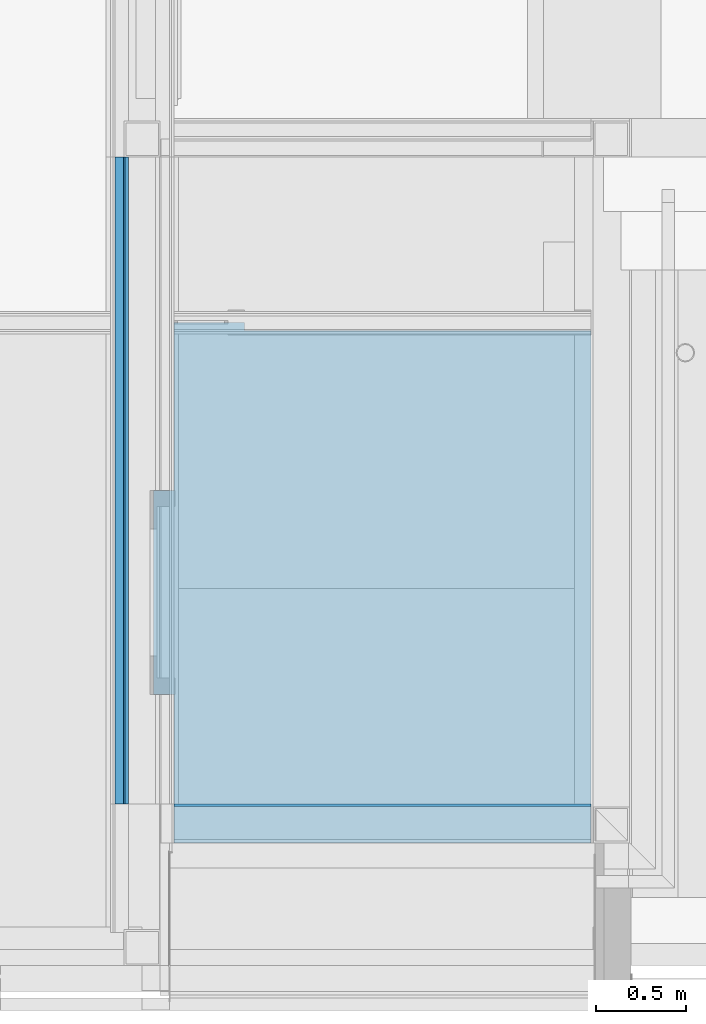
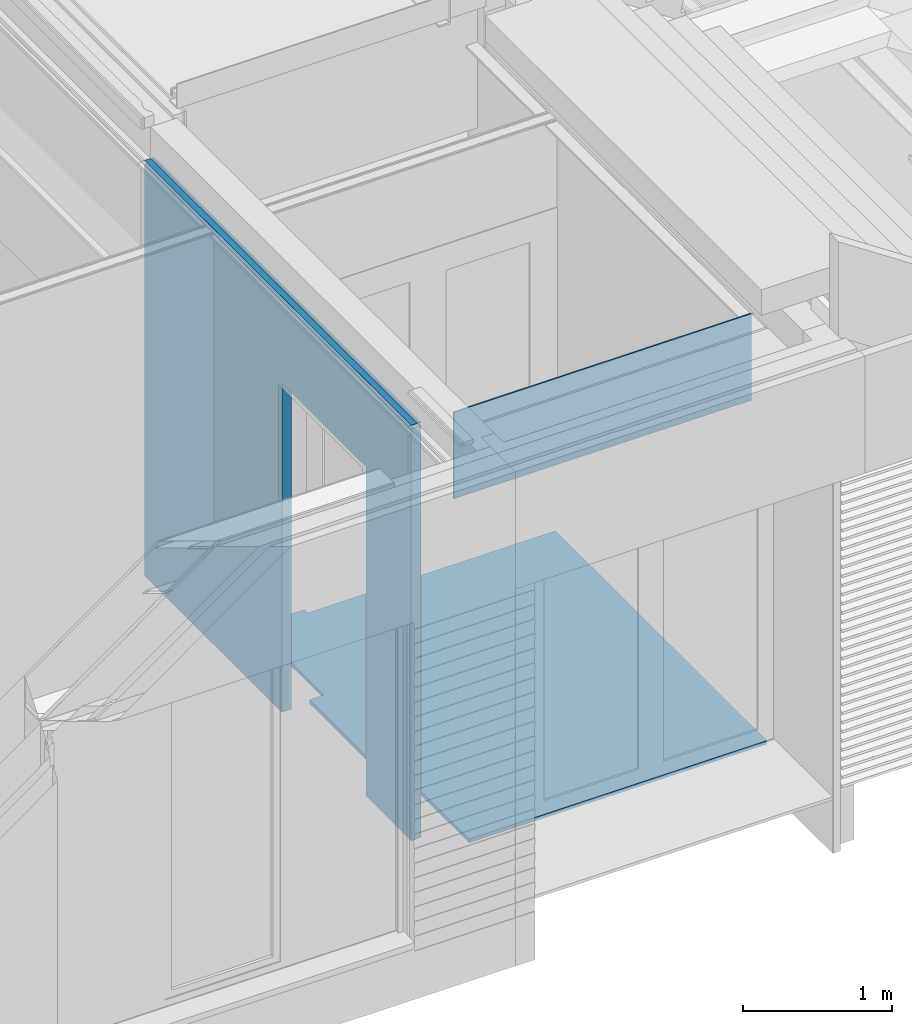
# One storey, part 44 of 165: 3 building element parts, 1 opening, 3 elements without a shape of their own.
"""IFC2X3 building model written with IfcOpenShell, lengths in millimetres."""

from ifc_helpers import new_model, entity, si_unit, converted_unit, derived_unit, money_unit, direction, frame, origin_with_axes, place, context, subcontext, project, spatial, faceted_brep, material, type_object, element, aggregate, save


model = new_model("IFC2X3")

# Units and contexts
model_context = context("Model", 3, precision=0.01, world=origin_with_axes(), true_north=direction((0.0, 1.0)))
body_context = subcontext(model_context, "Body", "Model", "MODEL_VIEW")
ifc_project = project(units=[si_unit("LENGTHUNIT", "METRE", prefix="MILLI"), si_unit("AREAUNIT", "SQUARE_METRE"), si_unit("VOLUMEUNIT", "CUBIC_METRE"), converted_unit("PLANEANGLEUNIT", "DEGREE", entity("IfcPlaneAngleMeasure", 0.0174532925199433), si_unit("PLANEANGLEUNIT", "RADIAN"), dimensions=[0, 0, 0, 0, 0, 0, 0]), money_unit("EUR"), converted_unit("TIMEUNIT", "Year", entity("IfcTimeMeasure", 31556926.0), si_unit("TIMEUNIT", "SECOND"), dimensions=[0, 0, 1, 0, 0, 0, 0]), si_unit("MASSUNIT", "GRAM", prefix="KILO"), si_unit("THERMODYNAMICTEMPERATUREUNIT", "DEGREE_CELSIUS"), si_unit("LUMINOUSINTENSITYUNIT", "LUMEN"), si_unit("ENERGYUNIT", "JOULE", prefix="MEGA"), derived_unit("THERMALCONDUCTANCEUNIT", [(si_unit("POWERUNIT", "WATT"), 1), (si_unit("LENGTHUNIT", "METRE"), -1), (si_unit("THERMODYNAMICTEMPERATUREUNIT", "KELVIN"), -1)]), derived_unit("SPECIFICHEATCAPACITYUNIT", [(si_unit("ENERGYUNIT", "JOULE"), 1), (si_unit("MASSUNIT", "GRAM", prefix="KILO"), -1), (si_unit("THERMODYNAMICTEMPERATUREUNIT", "KELVIN"), -1)]), derived_unit("MASSDENSITYUNIT", [(si_unit("MASSUNIT", "GRAM", prefix="KILO"), 1), (si_unit("VOLUMEUNIT", "CUBIC_METRE"), -1)])], contexts=[model_context])

# Site, building, storey
site_placement = place(None, origin_with_axes())
site = spatial("IfcSite", under=ifc_project, at=site_placement, Name="Site", CompositionType="ELEMENT")
building_placement = place(site_placement, origin_with_axes())
building = spatial("IfcBuilding", under=site, at=building_placement, Name="Naam gebouw", CompositionType="ELEMENT")
storey_placement = place(building_placement, origin_with_axes())
storey = spatial("IfcBuildingStorey", under=building, at=storey_placement, Name="Begane grond", CompositionType="ELEMENT", Elevation=0.0)

# Proxy, opening, building element part
building_element_proxy_type = type_object("IfcBuildingElementProxyType", Name="22 Metal stud 350 350", PredefinedType="NOTDEFINED")
proxy_placement = place(storey_placement, frame((8850.000000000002, 4479.999999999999, -100.0), z_axis=(0.0, 0.0, 1.0), x_axis=(0.0, -1.0, 0.0)))
proxy = element("IfcBuildingElementProxy", 1, at=proxy_placement, inside=storey, type_object=building_element_proxy_type, Name="_Wand-x")
opening_placement = place(proxy_placement, frame((2411.782817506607, 0.0, 100.0), z_axis=(0.0, 0.0, 1.0), x_axis=(1.0, 0.0, 0.0)))
element("IfcOpeningElement", 2, at=opening_placement, cuts=proxy, Name="_01.01", context=body_context, shape_type="Brep", body=[
    faceted_brep([(-565.0000000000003, -176.0000000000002, 2600.0), (-565.0000000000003, -176.0000000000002, -100.0000000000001), (565.0, -176.0000000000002, -100.0000000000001), (565.0, -176.0000000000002, 2600.0), (-565.0000000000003, 176.0000000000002, 2600.0), (-565.0000000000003, 176.0000000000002, -100.0000000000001), (565.0, 176.0000000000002, -100.0000000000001), (565.0, 176.0000000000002, 2600.0)], [[[0, 1, 2, 3]], [[4, 5, 1, 0]], [[5, 6, 2, 1]], [[6, 7, 3, 2]], [[7, 4, 0, 3]], [[6, 5, 4, 7]]]),
])
ifc_material_1 = material(Name="ALG - LICHTE SCHEIDINGSWAND")
building_element_part_1_placement = place(proxy_placement, origin_with_axes())
building_element_part_1 = element("IfcBuildingElementPart", 3, at=building_element_part_1_placement, material=ifc_material_1, Name="ALG - LICHTE SCHEIDINGSWAND", context=body_context, shape_type="Brep", body=[
    faceted_brep([(2976.782817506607, -75.00000000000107, 0.0), (2976.782817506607, -74.99999999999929, 2700.0), (1846.782817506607, -74.99999999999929, 2700.0), (1846.782817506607, -75.00000000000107, 0.0), (0.0, -74.99999999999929, 0.0), (0.0, -74.99999999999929, 3380.000002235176), (3586.0, -75.00000000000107, 3380.000002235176), (3586.0, -75.00000000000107, 0.0), (2976.782817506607, -150.0000000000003, 0.0), (2976.782817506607, -150.0000000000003, 2700.0), (1846.782817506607, -150.0000000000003, 2700.0), (1846.782817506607, -150.0000000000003, 0.0), (0.0, -150.0000000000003, 0.0), (0.0, -150.0000000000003, 3380.000002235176), (3586.0, -150.0000000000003, 3380.000002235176), (3586.0, -150.0000000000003, 0.0)], [[[0, 1, 2, 3, 4, 5, 6, 7]], [[1, 0, 8, 9]], [[2, 1, 9, 10]], [[3, 2, 10, 11]], [[3, 11, 12, 4]], [[13, 5, 4, 12]], [[6, 5, 13, 14]], [[6, 14, 15, 7]], [[8, 0, 7, 15]], [[9, 8, 15, 14, 13, 12, 11, 10]]]),
    faceted_brep([(3586.0, -75.00000000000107, 3410.0), (3586.0, -75.00000000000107, 3405.000002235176), (0.0, -74.99999999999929, 3405.000002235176), (0.0, -74.99999999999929, 3410.0), (3586.0, -95.00000000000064, 3410.0), (3586.0, -94.99999999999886, 3405.000002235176), (0.0, -95.00000000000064, 3405.000002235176), (0.0, -95.00000000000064, 3410.0)], [[[0, 1, 2, 3]], [[4, 5, 1, 0]], [[5, 6, 2, 1]], [[2, 6, 7, 3]], [[3, 7, 4, 0]], [[5, 4, 7, 6]]]),
    faceted_brep([(3586.0, -102.9999999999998, 3410.0), (0.0, -102.9999999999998, 3410.0), (0.0, -150.0000000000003, 3410.0), (3586.0, -150.0000000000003, 3410.0), (0.0, -102.9999999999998, 3405.000002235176), (3586.0, -102.9999999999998, 3405.000002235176), (0.0, -150.0000000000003, 3405.000002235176), (3586.0, -150.0000000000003, 3405.000002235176)], [[[0, 1, 2, 3]], [[4, 1, 0, 5]], [[4, 6, 2, 1]], [[6, 7, 3, 2]], [[5, 0, 3, 7]], [[6, 4, 5, 7]]]),
])
aggregate(proxy, [building_element_part_1])

# Slab, building element part
slab_type = type_object("IfcSlabType", Name="43 Zwevende dekvloer 100", PredefinedType="NOTDEFINED")
slab_placement = place(storey_placement, frame((9025.000021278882, 2633.217219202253, 0.0), z_axis=(0.0, 0.0, 1.0), x_axis=(1.0, 0.0, 0.0)))
slab = element("IfcSlab", 4, at=slab_placement, inside=storey, type_object=slab_type, Name="_Vloer-x", PredefinedType="NOTDEFINED")
ifc_material_2 = material(Name="Isolatie - XPS zwevende dekvloer")
building_element_part_2_placement = place(slab_placement, origin_with_axes())
building_element_part_2 = element("IfcBuildingElementPart", 5, at=building_element_part_2_placement, material=ifc_material_2, Name="Isolatie - XPS zwevende dekvloer", context=body_context, shape_type="Brep", body=[
    faceted_brep([(0.0, 0.0, -100.0), (-112.000021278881, 0.0, -100.0), (-112.000021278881, 0.0, -70.0), (0.0, 0.0, -70.0), (0.0, 931.7784826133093, -100.0), (390.9999914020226, 931.7784826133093, -100.0), (390.9999914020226, 886.778536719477, -100.0), (2310.999978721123, 886.778536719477, -100.0), (2310.999978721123, -1953.217247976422, -100.0), (0.0, -1953.217247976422, -100.0), (0.0, -1130.000065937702, -100.0), (-112.000021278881, -1130.000065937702, -100.0), (-112.000021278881, -1130.000065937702, -70.0), (0.0, -1130.000065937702, -70.0), (0.0, -1953.217247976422, -70.0), (2310.999978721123, -1953.217247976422, -70.0), (2310.999978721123, 886.778536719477, -70.0), (390.9999914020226, 886.778536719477, -70.0), (390.9999914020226, 931.7784826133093, -70.0), (0.0, 931.7784826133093, -70.0)], [[[0, 1, 2, 3]], [[0, 4, 5, 6, 7, 8, 9, 10, 11, 1]], [[1, 11, 12, 2]], [[3, 2, 12, 13, 14, 15, 16, 17, 18, 19]], [[4, 0, 3, 19]], [[5, 4, 19, 18]], [[6, 5, 18, 17]], [[7, 6, 17, 16]], [[8, 7, 16, 15]], [[9, 8, 15, 14]], [[10, 9, 14, 13]], [[11, 10, 13, 12]]]),
])
aggregate(slab, [building_element_part_2])

# Beam, building element part
beam_type = type_object("IfcBeamType", Name="31 HSB boven kozijnen 214 x 1000", PredefinedType="BEAM")
beam_placement = place(storey_placement, frame((9025.0, 893.9999999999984, 2600.000000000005), z_axis=(0.0, 0.0, 1.0), x_axis=(0.0, -1.0, 0.0)))
beam = element("IfcBeam", 6, at=beam_placement, inside=storey, type_object=beam_type, Name="28_Balk-x", ObjectType="BEAM")
ifc_material_3 = material(Name="Gipsplaat")
building_element_part_3_placement = place(beam_placement, origin_with_axes())
building_element_part_3 = element("IfcBuildingElementPart", 7, at=building_element_part_3_placement, material=ifc_material_3, Name="Gipsplaat", context=body_context, shape_type="Brep", body=[
    faceted_brep([(-9.341709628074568e-06, 0.0, 709.999999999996), (-9.341709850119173e-06, 2310.999999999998, 709.999999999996), (-9.341709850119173e-06, 2310.999999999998, 0.0), (-9.341709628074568e-06, 0.0, 0.0), (11.99999661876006, 2310.999999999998, 709.999999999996), (11.99999661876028, 0.0, 709.999999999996), (11.99999661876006, 2310.999999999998, 0.0), (11.99999661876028, 0.0, 0.0)], [[[0, 1, 2, 3]], [[4, 1, 0, 5]], [[1, 4, 6, 2]], [[3, 2, 6, 7]], [[5, 0, 3, 7]], [[4, 5, 7, 6]]]),
])
aggregate(beam, [building_element_part_3])

save(model, "model.ifc")
